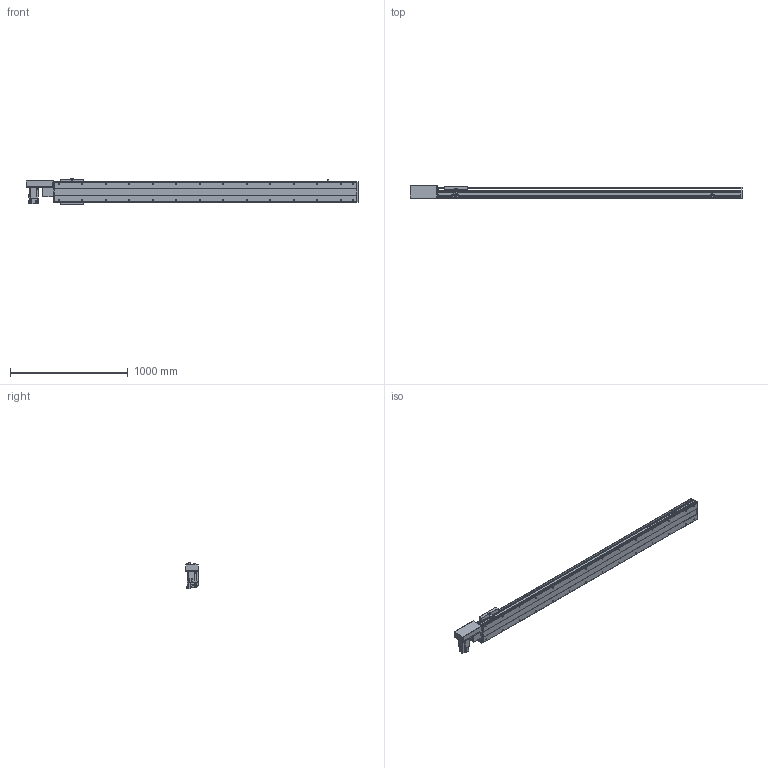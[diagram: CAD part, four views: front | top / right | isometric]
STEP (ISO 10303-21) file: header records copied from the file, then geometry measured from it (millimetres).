
FILE_DESCRIPTION(/* description */ ('STEP AP214'),/* implementation_level */ '2;1');
FILE_NAME(/* name */ 'PBS200-P40-S2200-R-T75-C1-N(0)',/* time_stamp */ '2022-06-11T08:10:11+02:00',/* author */ ('License CC BY-ND 4.0'),/* organization */ ('CADENAS'),/* preprocessor_version */ 'ST-DEVELOPER v18.102',/* originating_system */ 'PARTsolutions',/* authorisation */ ' ');
FILE_SCHEMA (('AUTOMOTIVE_DESIGN {1 0 10303 214 3 1 1}'));
Length unit declared in the file: millimetre
Products named in the file (7): PBS200-P40-S2200-R-T75-C1-N(0); PBS200_sensor; PBS200_plant; PBS200_sliser; T75-p1; PBS200T-R_motors; PBS200-S2200()_body
Assembly tree (8 placements, depth 2):
  PBS200-P40-S2200-R-T75-C1-N(0)
    PBS200_sensor  x3
    PBS200_plant
    PBS200_sliser
    T75-p1
    PBS200T-R_motors
    PBS200-S2200()_body
Bounding box: 2822 x 109 x 221 mm (x, y, z)
Volume: 18730456.9 mm3; surface area: 3001068.7 mm2
Topology: 8 solids, 8 shells, 956 faces, 2434 edges, 1584 vertices
Faces by surface type: plane 586, cylinder 310, cone 60
Full cylindrical faces by diameter (mm): 2.459 x6, 3.242 x4, 4.5 x6, 4.917 x4, 5 x6, 6 x7, 6.6 x8, 6.647 x32, 8 x6, 10 x4, 12 x8, 38 x2, 40 x1, 70 x1
Entity records: 25301 total; most frequent: DIRECTION 4471, CARTESIAN_POINT 4300, ORIENTED_EDGE 4054, EDGE_CURVE 2027, AXIS2_PLACEMENT_3D 1579, VERTEX_POINT 1408, LINE 1313, VECTOR 1313
